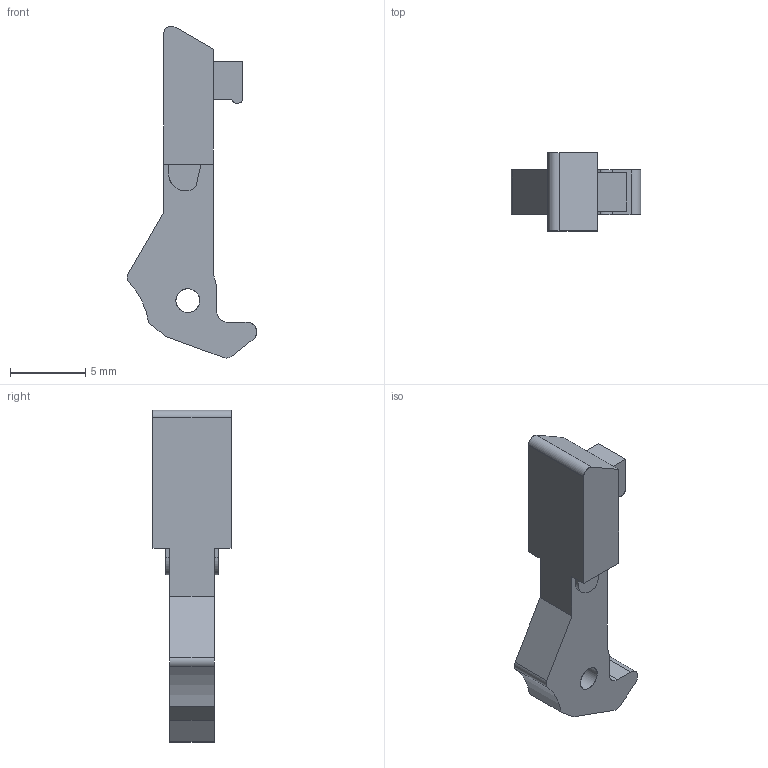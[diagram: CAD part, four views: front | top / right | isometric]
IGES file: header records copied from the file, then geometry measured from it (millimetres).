
Global section: file name: Q:\us297865\11491-web-model-4-wall-header\3505-3-long-latch.igs; native system: NX V7.5; preprocessor: SIEMENS PLM Software NX 7.5; date: 20120912.085406; units: inch
Bounding box: 8.6 x 5.18 x 22.05 mm (x, y, z)
Surface area: 413.3 mm2 (no closed solid volume)
Topology: 0 solids, 0 shells, 39 faces, 242 edges, 240 vertices
Faces by surface type: bspline 39
